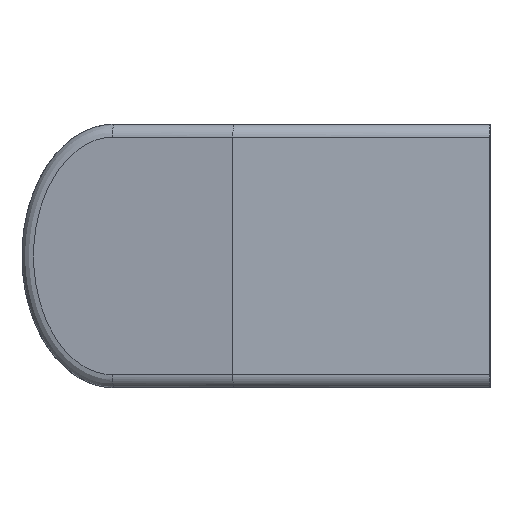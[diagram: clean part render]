
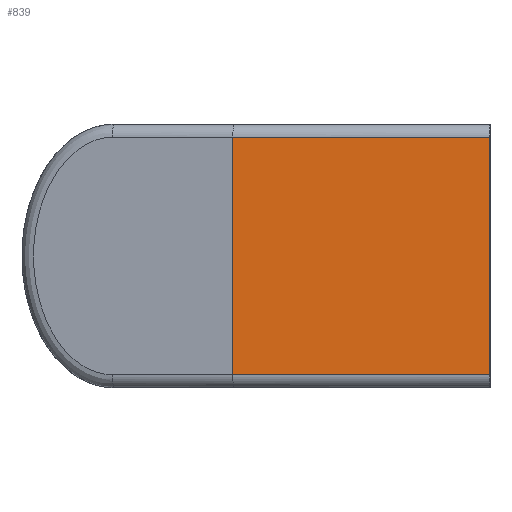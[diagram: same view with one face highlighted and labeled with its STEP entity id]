
A CAD part, left-side view. The second image highlights one B-rep face of the part: STEP entity #839.
In plain terms, the highlighted planar face has unit normal (-1, 0, 0).
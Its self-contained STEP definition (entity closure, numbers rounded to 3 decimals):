
#152 = EDGE_CURVE ( 'NONE', #1946, #812, #872, .T. ) ;
#210 = DIRECTION ( 'NONE',  ( 0., -1., 0. ) ) ;
#259 = ORIENTED_EDGE ( 'NONE', *, *, #152, .T. ) ;
#265 = EDGE_CURVE ( 'NONE', #1946, #1039, #764, .T. ) ;
#268 = CARTESIAN_POINT ( 'NONE',  ( -211., 39., -21. ) ) ;
#358 = CARTESIAN_POINT ( 'NONE',  ( -211., 0., 20. ) ) ;
#393 = VECTOR ( 'NONE', #210, 1000. ) ;
#553 = DIRECTION ( 'NONE',  ( 0., 0., 1. ) ) ;
#611 = CARTESIAN_POINT ( 'NONE',  ( -211., 0., 18. ) ) ;
#764 = LINE ( 'NONE', #907, #1126 ) ;
#773 = EDGE_LOOP ( 'NONE', ( #259, #1898, #1579, #1591 ) ) ;
#800 = DIRECTION ( 'NONE',  ( 0., 0., 1. ) ) ;
#812 = VERTEX_POINT ( 'NONE', #611 ) ;
#839 = ADVANCED_FACE ( 'NONE', ( #967 ), #1839, .F. ) ;
#872 = LINE ( 'NONE', #358, #1911 ) ;
#907 = CARTESIAN_POINT ( 'NONE',  ( -211., 39., -18. ) ) ;
#967 = FACE_OUTER_BOUND ( 'NONE', #773, .T. ) ;
#1039 = VERTEX_POINT ( 'NONE', #2036 ) ;
#1075 = CARTESIAN_POINT ( 'NONE',  ( -211., 39., 18. ) ) ;
#1126 = VECTOR ( 'NONE', #1429, 1000. ) ;
#1241 = VECTOR ( 'NONE', #553, 1000. ) ;
#1400 = CARTESIAN_POINT ( 'NONE',  ( -211., 39., 18. ) ) ;
#1429 = DIRECTION ( 'NONE',  ( 0., 1., 0. ) ) ;
#1579 = ORIENTED_EDGE ( 'NONE', *, *, #1915, .F. ) ;
#1591 = ORIENTED_EDGE ( 'NONE', *, *, #265, .F. ) ;
#1783 = CARTESIAN_POINT ( 'NONE',  ( -211., 0., -18. ) ) ;
#1806 = VERTEX_POINT ( 'NONE', #1075 ) ;
#1839 = PLANE ( 'NONE',  #2162 ) ;
#1851 = EDGE_CURVE ( 'NONE', #1806, #812, #1935, .T. ) ;
#1862 = DIRECTION ( 'NONE',  ( 1., 0., 0. ) ) ;
#1898 = ORIENTED_EDGE ( 'NONE', *, *, #1851, .F. ) ;
#1911 = VECTOR ( 'NONE', #2275, 1000. ) ;
#1915 = EDGE_CURVE ( 'NONE', #1039, #1806, #1962, .T. ) ;
#1935 = LINE ( 'NONE', #1400, #393 ) ;
#1946 = VERTEX_POINT ( 'NONE', #1783 ) ;
#1962 = LINE ( 'NONE', #2121, #1241 ) ;
#2036 = CARTESIAN_POINT ( 'NONE',  ( -211., 39., -18. ) ) ;
#2121 = CARTESIAN_POINT ( 'NONE',  ( -211., 39., -21. ) ) ;
#2162 = AXIS2_PLACEMENT_3D ( 'NONE', #268, #1862, #800 ) ;
#2275 = DIRECTION ( 'NONE',  ( 0., 0., 1. ) ) ;
